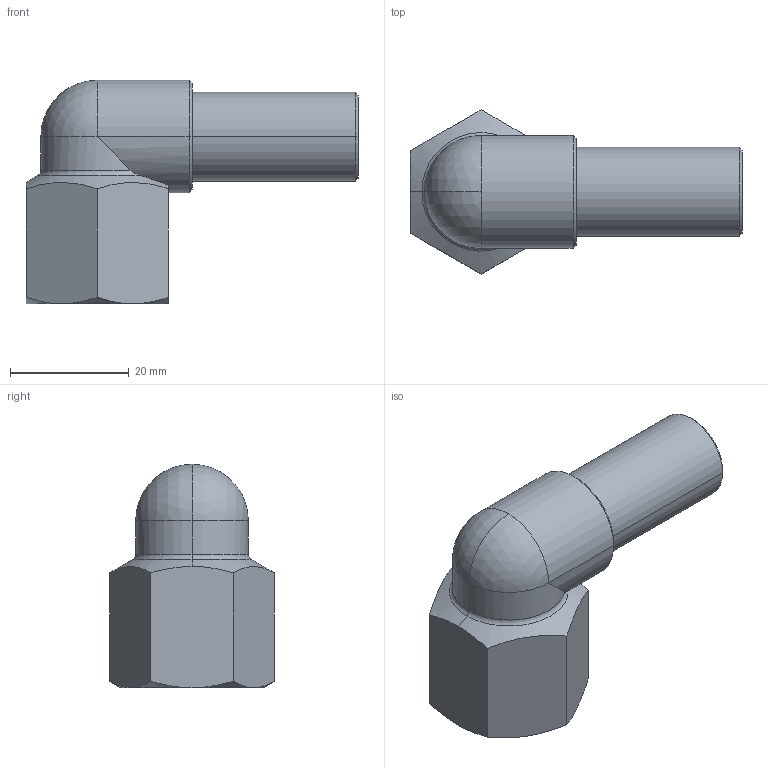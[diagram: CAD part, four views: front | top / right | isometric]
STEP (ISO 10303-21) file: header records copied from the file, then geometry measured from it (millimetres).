
FILE_DESCRIPTION(('OneSpaceDesigner STEP Export'),'2;1');
FILE_NAME('R2710 15xG1-2.stp','2010-06-09T14:49:48',(''),(''),'OneSpace Designer STEP processor for AP214 (Solid Model)','OneSpace Modeling 15.00A 14-Mar-2007 (C) CoCreate Software GmbH','');
FILE_SCHEMA(('AUTOMOTIVE_DESIGN { 1 0 10303 214 1 1 1 1 }'));
Length unit declared in the file: millimetre
Products named in the file (2): R2710_15xG1-2
Assembly tree (1 placements, depth 2):
  R2710_15xG1-2
    R2710_15xG1-2
Bounding box: 56 x 27.71 x 37.7 mm (x, y, z)
Volume: 10039.9 mm3; surface area: 8016.5 mm2
Topology: 1 solids, 1 shells, 42 faces, 101 edges, 59 vertices
Faces by surface type: cone 14, cylinder 12, plane 10, sphere 4, torus 2
Entity records: 2026 total; most frequent: CARTESIAN_POINT 1163, ORIENTED_EDGE 194, DIRECTION 132, EDGE_CURVE 97, VERTEX_POINT 59, AXIS2_PLACEMENT_3D 54, EDGE_LOOP 46, FACE_OUTER_BOUND 42
